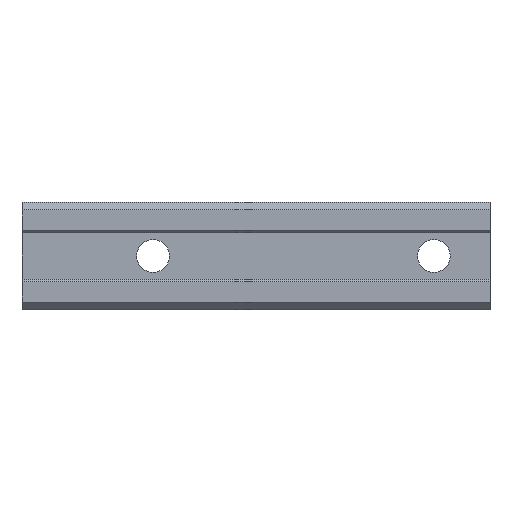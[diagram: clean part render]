
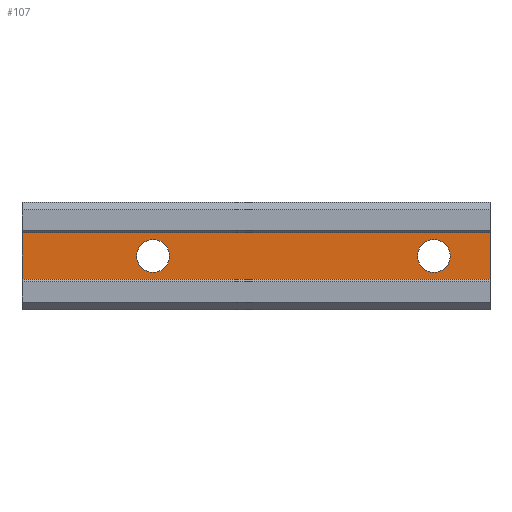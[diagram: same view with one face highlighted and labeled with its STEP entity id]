
A CAD part, front view. The second image highlights one B-rep face of the part: STEP entity #107.
In plain terms, the highlighted planar face has unit normal (0, -1, 0).
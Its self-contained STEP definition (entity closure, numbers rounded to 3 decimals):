
#107 = ADVANCED_FACE( '', ( #182, #183, #184 ), #185, .T. );
#182 = FACE_BOUND( '', #264, .T. );
#183 = FACE_BOUND( '', #265, .T. );
#184 = FACE_OUTER_BOUND( '', #266, .T. );
#185 = PLANE( '', #267 );
#264 = EDGE_LOOP( '', ( #506, #507 ) );
#265 = EDGE_LOOP( '', ( #508, #509 ) );
#266 = EDGE_LOOP( '', ( #510, #511, #512, #513 ) );
#267 = AXIS2_PLACEMENT_3D( '', #514, #515, #516 );
#506 = ORIENTED_EDGE( '', *, *, #612, .T. );
#507 = ORIENTED_EDGE( '', *, *, #611, .T. );
#508 = ORIENTED_EDGE( '', *, *, #616, .T. );
#509 = ORIENTED_EDGE( '', *, *, #603, .T. );
#510 = ORIENTED_EDGE( '', *, *, #687, .T. );
#511 = ORIENTED_EDGE( '', *, *, #688, .F. );
#512 = ORIENTED_EDGE( '', *, *, #689, .T. );
#513 = ORIENTED_EDGE( '', *, *, #685, .T. );
#514 = CARTESIAN_POINT( '', ( 0., 0.5, -5. ) );
#515 = DIRECTION( '', ( 0., -1., 0. ) );
#516 = DIRECTION( '', ( 0., 0., -1. ) );
#603 = EDGE_CURVE( '', #707, #711, #713, .T. );
#611 = EDGE_CURVE( '', #723, #727, #729, .T. );
#612 = EDGE_CURVE( '', #727, #723, #730, .T. );
#616 = EDGE_CURVE( '', #711, #707, #734, .T. );
#685 = EDGE_CURVE( '', #848, #846, #849, .T. );
#687 = EDGE_CURVE( '', #846, #851, #852, .T. );
#688 = EDGE_CURVE( '', #853, #851, #854, .T. );
#689 = EDGE_CURVE( '', #853, #848, #855, .T. );
#707 = VERTEX_POINT( '', #879 );
#711 = VERTEX_POINT( '', #884 );
#713 = CIRCLE( '', #887, 3.5 );
#723 = VERTEX_POINT( '', #899 );
#727 = VERTEX_POINT( '', #904 );
#729 = CIRCLE( '', #907, 3.5 );
#730 = CIRCLE( '', #908, 3.5 );
#734 = CIRCLE( '', #912, 3.5 );
#846 = VERTEX_POINT( '', #1084 );
#848 = VERTEX_POINT( '', #1087 );
#849 = LINE( '', #1088, #1089 );
#851 = VERTEX_POINT( '', #1092 );
#852 = LINE( '', #1093, #1094 );
#853 = VERTEX_POINT( '', #1095 );
#854 = LINE( '', #1096, #1097 );
#855 = LINE( '', #1098, #1099 );
#879 = CARTESIAN_POINT( '', ( 31.5, 0.5, 0. ) );
#884 = CARTESIAN_POINT( '', ( 24.5, 0.5, 0. ) );
#887 = AXIS2_PLACEMENT_3D( '', #1133, #1134, #1135 );
#899 = CARTESIAN_POINT( '', ( 91.5, 0.5, 0. ) );
#904 = CARTESIAN_POINT( '', ( 84.5, 0.5, 0. ) );
#907 = AXIS2_PLACEMENT_3D( '', #1149, #1150, #1151 );
#908 = AXIS2_PLACEMENT_3D( '', #1152, #1153, #1154 );
#912 = AXIS2_PLACEMENT_3D( '', #1164, #1165, #1166 );
#1084 = CARTESIAN_POINT( '', ( 100., 0.5, -5. ) );
#1087 = CARTESIAN_POINT( '', ( 0., 0.5, -5. ) );
#1088 = CARTESIAN_POINT( '', ( 0., 0.5, -5. ) );
#1089 = VECTOR( '', #1249, 1. );
#1092 = CARTESIAN_POINT( '', ( 100., 0.5, 5. ) );
#1093 = CARTESIAN_POINT( '', ( 100., 0.5, 5. ) );
#1094 = VECTOR( '', #1251, 1. );
#1095 = CARTESIAN_POINT( '', ( 0., 0.5, 5. ) );
#1096 = CARTESIAN_POINT( '', ( 0., 0.5, 5. ) );
#1097 = VECTOR( '', #1252, 1. );
#1098 = CARTESIAN_POINT( '', ( 0., 0.5, 5. ) );
#1099 = VECTOR( '', #1253, 1. );
#1133 = CARTESIAN_POINT( '', ( 28., 0.5, 0. ) );
#1134 = DIRECTION( '', ( 0., 1., 0. ) );
#1135 = DIRECTION( '', ( 1., 0., 0. ) );
#1149 = CARTESIAN_POINT( '', ( 88., 0.5, 0. ) );
#1150 = DIRECTION( '', ( 0., 1., 0. ) );
#1151 = DIRECTION( '', ( 1., 0., 0. ) );
#1152 = CARTESIAN_POINT( '', ( 88., 0.5, 0. ) );
#1153 = DIRECTION( '', ( 0., 1., 0. ) );
#1154 = DIRECTION( '', ( 1., 0., 0. ) );
#1164 = CARTESIAN_POINT( '', ( 28., 0.5, 0. ) );
#1165 = DIRECTION( '', ( 0., 1., 0. ) );
#1166 = DIRECTION( '', ( 1., 0., 0. ) );
#1249 = DIRECTION( '', ( 1., 0., 0. ) );
#1251 = DIRECTION( '', ( 0., 0., 1. ) );
#1252 = DIRECTION( '', ( 1., 0., 0. ) );
#1253 = DIRECTION( '', ( 0., 0., -1. ) );
